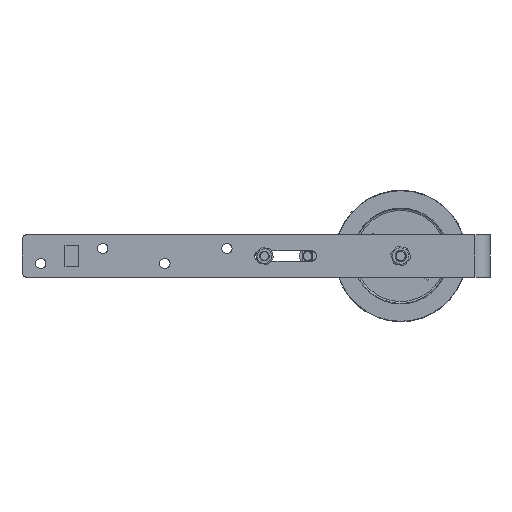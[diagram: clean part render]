
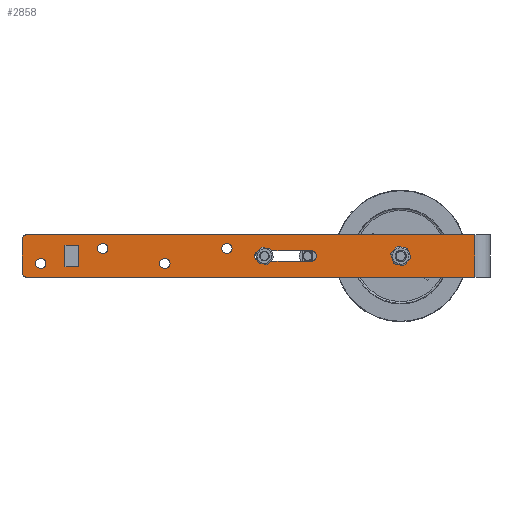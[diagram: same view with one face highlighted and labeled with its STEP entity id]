
A CAD part, left-side view. The second image highlights one B-rep face of the part: STEP entity #2858.
In plain terms, the highlighted planar face has unit normal (-1, 0, 0) as drawn and (0, 0, -1) by its records, which use the part's own axes.
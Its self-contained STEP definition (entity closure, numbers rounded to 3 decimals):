
#215=FACE_BOUND('',#589,.T.);
#216=FACE_BOUND('',#590,.T.);
#217=FACE_BOUND('',#591,.T.);
#218=FACE_BOUND('',#592,.T.);
#219=FACE_BOUND('',#593,.T.);
#220=FACE_BOUND('',#594,.T.);
#221=FACE_BOUND('',#595,.T.);
#254=CIRCLE('',#3176,5.);
#255=CIRCLE('',#3179,5.);
#256=CIRCLE('',#3180,5.5);
#257=CIRCLE('',#3181,5.5);
#258=CIRCLE('',#3182,5.5);
#259=CIRCLE('',#3183,5.5);
#260=CIRCLE('',#3184,6.25);
#261=CIRCLE('',#3185,5.5);
#262=CIRCLE('',#3186,5.5);
#409=FACE_OUTER_BOUND('',#588,.T.);
#588=EDGE_LOOP('',(#1974,#1975,#1976,#1977,#1978,#1979));
#589=EDGE_LOOP('',(#1980,#1981,#1982,#1983));
#590=EDGE_LOOP('',(#1984));
#591=EDGE_LOOP('',(#1985));
#592=EDGE_LOOP('',(#1986));
#593=EDGE_LOOP('',(#1987));
#594=EDGE_LOOP('',(#1988));
#595=EDGE_LOOP('',(#1989,#1990,#1991,#1992));
#787=LINE('',#4312,#1019);
#791=LINE('',#4320,#1023);
#794=LINE('',#4326,#1026);
#797=LINE('',#4331,#1029);
#813=LINE('',#4380,#1045);
#816=LINE('',#4386,#1048);
#817=LINE('',#4390,#1049);
#818=LINE('',#4391,#1050);
#819=LINE('',#4406,#1051);
#820=LINE('',#4409,#1052);
#1019=VECTOR('',#3469,10.);
#1023=VECTOR('',#3475,10.);
#1026=VECTOR('',#3480,10.);
#1029=VECTOR('',#3485,10.);
#1045=VECTOR('',#3531,10.);
#1048=VECTOR('',#3536,10.);
#1049=VECTOR('',#3539,10.);
#1050=VECTOR('',#3540,10.);
#1051=VECTOR('',#3553,10.);
#1052=VECTOR('',#3556,10.);
#1251=VERTEX_POINT('',#4310);
#1252=VERTEX_POINT('',#4311);
#1255=VERTEX_POINT('',#4319);
#1257=VERTEX_POINT('',#4325);
#1274=VERTEX_POINT('',#4373);
#1275=VERTEX_POINT('',#4375);
#1276=VERTEX_POINT('',#4379);
#1278=VERTEX_POINT('',#4385);
#1279=VERTEX_POINT('',#4387);
#1280=VERTEX_POINT('',#4389);
#1281=VERTEX_POINT('',#4392);
#1282=VERTEX_POINT('',#4394);
#1283=VERTEX_POINT('',#4396);
#1284=VERTEX_POINT('',#4398);
#1285=VERTEX_POINT('',#4400);
#1286=VERTEX_POINT('',#4402);
#1287=VERTEX_POINT('',#4403);
#1288=VERTEX_POINT('',#4405);
#1289=VERTEX_POINT('',#4407);
#1512=EDGE_CURVE('',#1251,#1252,#787,.T.);
#1516=EDGE_CURVE('',#1255,#1251,#791,.T.);
#1519=EDGE_CURVE('',#1257,#1255,#794,.T.);
#1522=EDGE_CURVE('',#1252,#1257,#797,.T.);
#1543=EDGE_CURVE('',#1274,#1275,#254,.T.);
#1545=EDGE_CURVE('',#1275,#1276,#813,.T.);
#1548=EDGE_CURVE('',#1278,#1274,#816,.T.);
#1549=EDGE_CURVE('',#1279,#1278,#255,.T.);
#1550=EDGE_CURVE('',#1280,#1279,#817,.T.);
#1551=EDGE_CURVE('',#1280,#1276,#818,.T.);
#1552=EDGE_CURVE('',#1281,#1281,#256,.T.);
#1553=EDGE_CURVE('',#1282,#1282,#257,.T.);
#1554=EDGE_CURVE('',#1283,#1283,#258,.T.);
#1555=EDGE_CURVE('',#1284,#1284,#259,.T.);
#1556=EDGE_CURVE('',#1285,#1285,#260,.T.);
#1557=EDGE_CURVE('',#1286,#1287,#261,.T.);
#1558=EDGE_CURVE('',#1287,#1288,#819,.T.);
#1559=EDGE_CURVE('',#1288,#1289,#262,.T.);
#1560=EDGE_CURVE('',#1289,#1286,#820,.T.);
#1974=ORIENTED_EDGE('',*,*,#1543,.F.);
#1975=ORIENTED_EDGE('',*,*,#1548,.F.);
#1976=ORIENTED_EDGE('',*,*,#1549,.F.);
#1977=ORIENTED_EDGE('',*,*,#1550,.F.);
#1978=ORIENTED_EDGE('',*,*,#1551,.T.);
#1979=ORIENTED_EDGE('',*,*,#1545,.F.);
#1980=ORIENTED_EDGE('',*,*,#1512,.T.);
#1981=ORIENTED_EDGE('',*,*,#1522,.T.);
#1982=ORIENTED_EDGE('',*,*,#1519,.T.);
#1983=ORIENTED_EDGE('',*,*,#1516,.T.);
#1984=ORIENTED_EDGE('',*,*,#1552,.T.);
#1985=ORIENTED_EDGE('',*,*,#1553,.T.);
#1986=ORIENTED_EDGE('',*,*,#1554,.T.);
#1987=ORIENTED_EDGE('',*,*,#1555,.T.);
#1988=ORIENTED_EDGE('',*,*,#1556,.T.);
#1989=ORIENTED_EDGE('',*,*,#1557,.T.);
#1990=ORIENTED_EDGE('',*,*,#1558,.T.);
#1991=ORIENTED_EDGE('',*,*,#1559,.T.);
#1992=ORIENTED_EDGE('',*,*,#1560,.T.);
#2754=PLANE('',#3178);
#2858=ADVANCED_FACE('',(#409,#215,#216,#217,#218,#219,#220,#221),#2754,
 .F.);
#3176=AXIS2_PLACEMENT_3D('',#4376,#3526,#3527);
#3178=AXIS2_PLACEMENT_3D('',#4384,#3534,#3535);
#3179=AXIS2_PLACEMENT_3D('',#4388,#3537,#3538);
#3180=AXIS2_PLACEMENT_3D('',#4393,#3541,#3542);
#3181=AXIS2_PLACEMENT_3D('',#4395,#3543,#3544);
#3182=AXIS2_PLACEMENT_3D('',#4397,#3545,#3546);
#3183=AXIS2_PLACEMENT_3D('',#4399,#3547,#3548);
#3184=AXIS2_PLACEMENT_3D('',#4401,#3549,#3550);
#3185=AXIS2_PLACEMENT_3D('',#4404,#3551,#3552);
#3186=AXIS2_PLACEMENT_3D('',#4408,#3554,#3555);
#3469=DIRECTION('',(0.,-1.,0.));
#3475=DIRECTION('',(-1.,0.,0.));
#3480=DIRECTION('',(0.,1.,0.));
#3485=DIRECTION('',(1.,0.,0.));
#3526=DIRECTION('center_axis',(0.,0.,1.));
#3527=DIRECTION('ref_axis',(0.707,-0.707,0.));
#3531=DIRECTION('',(0.,1.,0.));
#3534=DIRECTION('center_axis',(0.,0.,1.));
#3535=DIRECTION('ref_axis',(1.,0.,0.));
#3536=DIRECTION('',(1.,0.,0.));
#3537=DIRECTION('center_axis',(0.,0.,1.));
#3538=DIRECTION('ref_axis',(-0.707,-0.707,0.));
#3539=DIRECTION('',(0.,-1.,0.));
#3540=DIRECTION('',(1.,0.,0.));
#3541=DIRECTION('center_axis',(0.,0.,1.));
#3542=DIRECTION('ref_axis',(-1.,0.,0.));
#3543=DIRECTION('center_axis',(0.,0.,1.));
#3544=DIRECTION('ref_axis',(-1.,0.,0.));
#3545=DIRECTION('center_axis',(0.,0.,1.));
#3546=DIRECTION('ref_axis',(-1.,0.,0.));
#3547=DIRECTION('center_axis',(0.,0.,1.));
#3548=DIRECTION('ref_axis',(-1.,0.,0.));
#3549=DIRECTION('center_axis',(0.,0.,1.));
#3550=DIRECTION('ref_axis',(-1.,0.,0.));
#3551=DIRECTION('center_axis',(0.,0.,1.));
#3552=DIRECTION('ref_axis',(1.,0.,0.));
#3553=DIRECTION('',(0.,-1.,0.));
#3554=DIRECTION('center_axis',(0.,0.,1.));
#3555=DIRECTION('ref_axis',(-1.,0.,0.));
#3556=DIRECTION('',(0.,1.,0.));
#4310=CARTESIAN_POINT('',(-11.25,-342.75,0.));
#4311=CARTESIAN_POINT('',(-11.25,-357.25,0.));
#4312=CARTESIAN_POINT('',(-11.25,-248.375,0.));
#4319=CARTESIAN_POINT('',(11.25,-342.75,0.));
#4320=CARTESIAN_POINT('',(5.625,-342.75,0.));
#4325=CARTESIAN_POINT('',(11.25,-357.25,0.));
#4326=CARTESIAN_POINT('',(11.25,-255.625,0.));
#4331=CARTESIAN_POINT('',(-5.625,-357.25,0.));
#4373=CARTESIAN_POINT('',(17.5,-403.,0.));
#4375=CARTESIAN_POINT('',(22.5,-398.,0.));
#4376=CARTESIAN_POINT('Origin',(17.5,-398.,0.));
#4379=CARTESIAN_POINT('',(22.5,79.,0.));
#4380=CARTESIAN_POINT('',(22.5,-403.,0.));
#4384=CARTESIAN_POINT('Origin',(0.,-154.,0.));
#4385=CARTESIAN_POINT('',(-17.5,-403.,0.));
#4386=CARTESIAN_POINT('',(-22.5,-403.,0.));
#4387=CARTESIAN_POINT('',(-22.5,-398.,0.));
#4388=CARTESIAN_POINT('Origin',(-17.5,-398.,0.));
#4389=CARTESIAN_POINT('',(-22.5,79.,0.));
#4390=CARTESIAN_POINT('',(-22.5,95.,0.));
#4391=CARTESIAN_POINT('',(-11.25,79.,0.));
#4392=CARTESIAN_POINT('',(13.5,-185.,0.));
#4393=CARTESIAN_POINT('Origin',(8.,-185.,0.));
#4394=CARTESIAN_POINT('',(-2.5,-251.,0.));
#4395=CARTESIAN_POINT('Origin',(-8.,-251.,0.));
#4396=CARTESIAN_POINT('',(13.5,-317.,0.));
#4397=CARTESIAN_POINT('Origin',(8.,-317.,0.));
#4398=CARTESIAN_POINT('',(-2.5,-383.,0.));
#4399=CARTESIAN_POINT('Origin',(-8.,-383.,0.));
#4400=CARTESIAN_POINT('',(6.25,0.,0.));
#4401=CARTESIAN_POINT('Origin',(0.,0.,0.));
#4402=CARTESIAN_POINT('',(5.5,-95.,0.));
#4403=CARTESIAN_POINT('',(-5.5,-95.,0.));
#4404=CARTESIAN_POINT('Origin',(0.,-95.,0.));
#4405=CARTESIAN_POINT('',(-5.5,-150.,0.));
#4406=CARTESIAN_POINT('',(-5.5,-124.5,0.));
#4407=CARTESIAN_POINT('',(5.5,-150.,0.));
#4408=CARTESIAN_POINT('Origin',(0.,-150.,0.));
#4409=CARTESIAN_POINT('',(5.5,-152.,0.));
